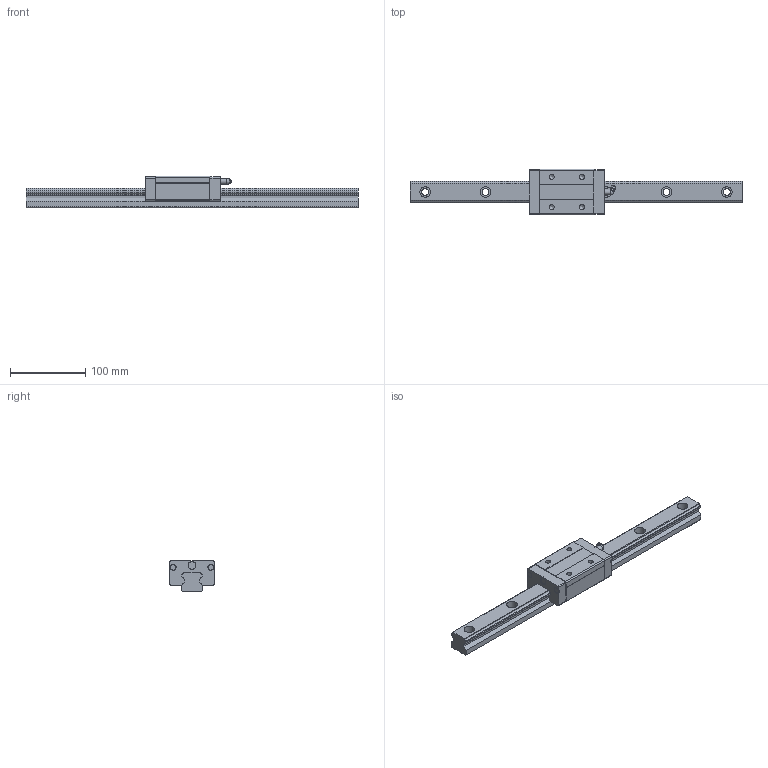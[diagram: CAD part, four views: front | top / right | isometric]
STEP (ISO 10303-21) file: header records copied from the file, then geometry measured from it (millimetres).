
FILE_DESCRIPTION((''),'2;1');
FILE_NAME('D:\製品 (図面)\カタログ用3D\リニアガイド関連\STEP形式\LGS\LGS30.stp','2010-06-02T16:00:56',('Tsuchiya'),(''),'Autodesk Inventor 10','Autodesk Inventor 10','');
FILE_SCHEMA(('AUTOMOTIVE_DESIGN { 1 0 10303 214 1 1 1 1 }'));
Length unit declared in the file: millimetre
Products named in the file (3): LGS30; LGS301; LGS302
Assembly tree (2 placements, depth 2):
  LGS30
    LGS301
    LGS302
Bounding box: 440 x 60 x 42 mm (x, y, z)
Volume: 419285.9 mm3; surface area: 81275.7 mm2
Topology: 2 solids, 2 shells, 151 faces, 389 edges, 256 vertices
Faces by surface type: plane 80, bspline 32, cylinder 32, cone 4, sphere 3
Full cylindrical faces by diameter (mm): 6.647 x2, 7 x1, 7.5 x2, 7.7 x1, 8 x2, 10.5 x1
Entity records: 4852 total; most frequent: CARTESIAN_POINT 1317, DIRECTION 696, ORIENTED_EDGE 676, EDGE_CURVE 338, VERTEX_POINT 246, AXIS2_PLACEMENT_3D 238, VECTOR 220, LINE 220
